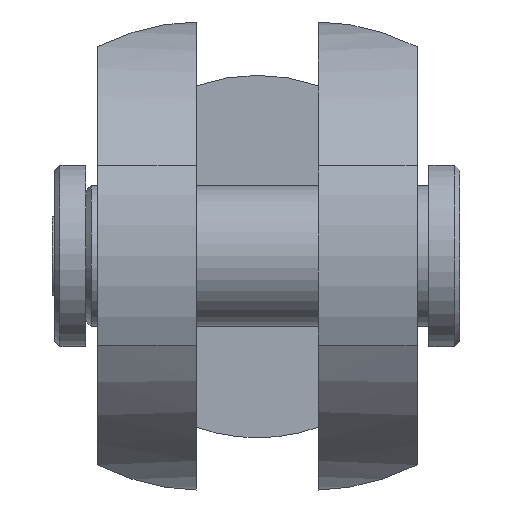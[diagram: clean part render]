
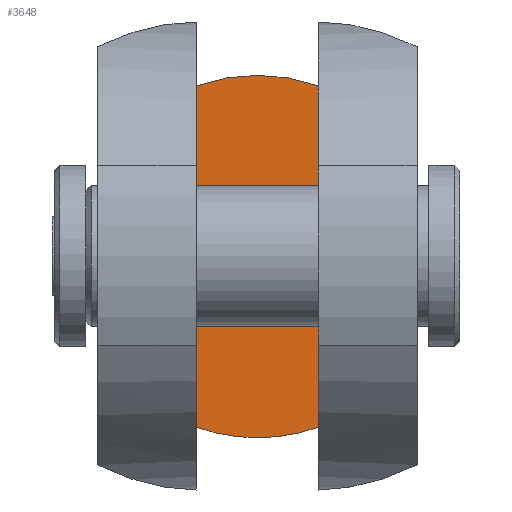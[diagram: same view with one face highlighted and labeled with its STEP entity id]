
A CAD part, top view. The second image highlights one B-rep face of the part: STEP entity #3648.
In plain terms, the highlighted planar face has unit normal (0, 0, 1).
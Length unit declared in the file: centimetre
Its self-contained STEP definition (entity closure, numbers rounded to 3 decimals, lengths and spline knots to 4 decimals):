
#173=PLANE('',#3855);
#586=LINE('',#6011,#942);
#587=LINE('',#6013,#943);
#942=VECTOR('',#4593,6.5691);
#943=VECTOR('',#4596,6.5691);
#1184=FACE_OUTER_BOUND('',#1410,.T.);
#1410=EDGE_LOOP('',(#3168,#3169,#3170,#3171));
#1478=CIRCLE('',#3710,3.4884);
#1479=CIRCLE('',#3711,3.4884);
#1543=VERTEX_POINT('',#4890);
#1544=VERTEX_POINT('',#4894);
#1549=VERTEX_POINT('',#4926);
#1550=VERTEX_POINT('',#4930);
#1875=EDGE_CURVE('',#1543,#1544,#1478,.T.);
#1881=EDGE_CURVE('',#1549,#1550,#1479,.T.);
#2276=EDGE_CURVE('',#1550,#1543,#586,.T.);
#2277=EDGE_CURVE('',#1549,#1544,#587,.T.);
#3168=ORIENTED_EDGE('',*,*,#1881,.F.);
#3169=ORIENTED_EDGE('',*,*,#2277,.T.);
#3170=ORIENTED_EDGE('',*,*,#1875,.F.);
#3171=ORIENTED_EDGE('',*,*,#2276,.F.);
#3648=ADVANCED_FACE('',(#1184),#173,.F.);
#3710=AXIS2_PLACEMENT_3D('',#4895,#3969,#3970);
#3711=AXIS2_PLACEMENT_3D('',#4931,#3971,#3972);
#3855=AXIS2_PLACEMENT_3D('',#6012,#4594,#4595);
#3969=DIRECTION('center_axis',(0.,0.,
-1.));
#3970=DIRECTION('ref_axis',(0.,-1.,0.));
#3971=DIRECTION('center_axis',(0.,0.,
-1.));
#3972=DIRECTION('ref_axis',(0.,-1.,0.));
#4593=DIRECTION('',(0.,1.,0.));
#4594=DIRECTION('center_axis',(0.,0.,
-1.));
#4595=DIRECTION('ref_axis',(-1.,0.,0.));
#4596=DIRECTION('',(0.,1.,0.));
#4890=CARTESIAN_POINT('',(-1.175,3.2846,-6.));
#4894=CARTESIAN_POINT('',(1.175,3.2846,-6.));
#4895=CARTESIAN_POINT('Origin',(0.,0.,
-6.));
#4926=CARTESIAN_POINT('',(1.175,-3.2846,-6.));
#4930=CARTESIAN_POINT('',(-1.175,-3.2846,-6.));
#4931=CARTESIAN_POINT('Origin',(0.,0.,
-6.));
#6011=CARTESIAN_POINT('',(-1.175,0.,-6.));
#6012=CARTESIAN_POINT('Origin',(1.175,0.,-6.));
#6013=CARTESIAN_POINT('',(1.175,0.,-6.));
